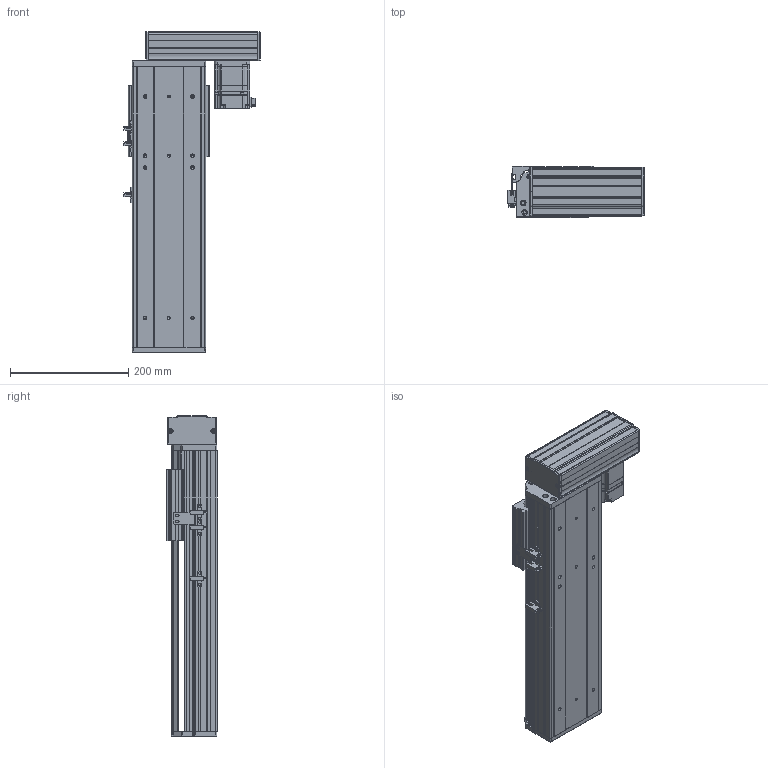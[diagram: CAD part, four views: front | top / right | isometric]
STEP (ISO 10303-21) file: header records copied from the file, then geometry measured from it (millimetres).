
FILE_DESCRIPTION(('Creo Elements/Direct Modeling STEP Export'),'2;1');
FILE_NAME('APOS120RON-ST300.stp','2022-02-18T11:33:46',(''),(''),'Creo Elements/Direct Modeling STEP processor for AP203 (Solid Model)','Creo Elements/Direct Modeling 19.0G 27-Nov-2017 (C) Parametric Technology GmbH','');
FILE_SCHEMA(('CONFIG_CONTROL_DESIGN'));
Length unit declared in the file: millimetre
Products named in the file (17): APCS120_º´·Ä_MOTOR_BRACKET-200_400W; APCS120_º´·Ä_MOTOR_END_COVER; APCS120_º´·Ä_MOTOR_UPPER_COVER-200W_400W; EE_SX672; APOS120_END_PLATE; sgmjv_02a_a21; p1; p2; APOS1200_Carrier; APOS120_SENSOR_DOG; 120_end_cover_1220; p3; APOS120_BASE_FRAME-320L; APOS120RON-1520-ST300-20NN00-N-I3R; APOS120RON-ST300
Assembly tree (19 placements, depth 4):
  APOS120RON-ST300
    APOS120RON-1520-ST300-20NN00-N-I3R
      APOS120_BASE_FRAME-320L
        p3
        p2
        p1
      120_end_cover_1220
      APOS120_SENSOR_DOG
      APOS1200_Carrier
        p2
        p1
      EE_SX672  x3
      sgmjv_02a_a21
      APOS120_END_PLATE
      APCS120_º´·Ä_MOTOR_END_COVER  x2
      APCS120_º´·Ä_MOTOR_UPPER_COVER-200W_400W
      APCS120_º´·Ä_MOTOR_BRACKET-200_400W
Bounding box: 229.7 x 86 x 541.5 mm (x, y, z)
Volume: 2641258.7 mm3; surface area: 705259.9 mm2
Topology: 16 solids, 16 shells, 1819 faces, 4982 edges, 3259 vertices
Faces by surface type: plane 1084, cylinder 612, cone 94, bspline 24, sphere 4, torus 1
Entity records: 52478 total; most frequent: CARTESIAN_POINT 10022, ORIENTED_EDGE 8764, DIRECTION 8237, EDGE_CURVE 4382, VECTOR 3003, LINE 3003, VERTEX_POINT 2895, AXIS2_PLACEMENT_3D 2617
